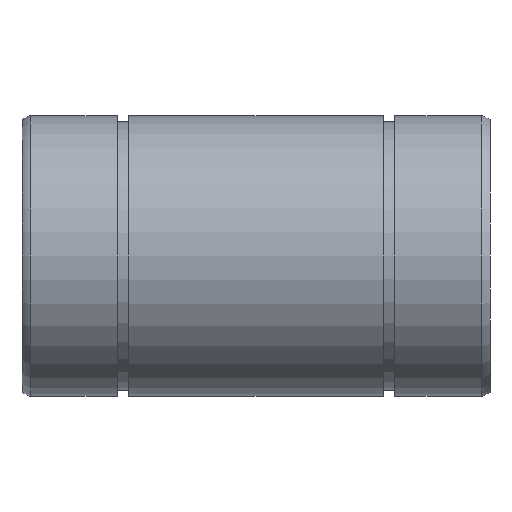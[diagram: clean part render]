
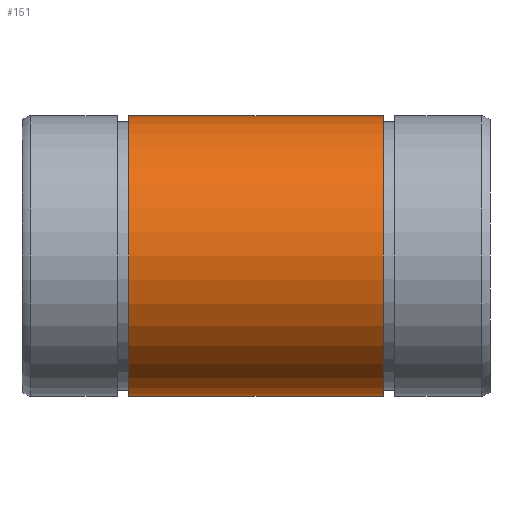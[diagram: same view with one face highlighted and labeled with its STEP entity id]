
A CAD part, front view. The second image highlights one B-rep face of the part: STEP entity #151.
In plain terms, the highlighted cylindrical face has radius 22.5 mm (diameter 45 mm), a full revolution.
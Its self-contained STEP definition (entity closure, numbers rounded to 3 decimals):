
#117=CARTESIAN_POINT('',(57.9,0.0,22.5));
#118=VERTEX_POINT('',#117);
#119=CARTESIAN_POINT('',(57.9,0.0,0.));
#120=DIRECTION('',(-1.0,0.0,0.0));
#121=DIRECTION('',(0.0,0.0,1.0));
#122=AXIS2_PLACEMENT_3D('',#119,#120,#121);
#123=CIRCLE('',#122,22.5);
#124=EDGE_CURVE('',#118,#118,#123,.T.);
#132=CARTESIAN_POINT('',(37.5,0.0,0.));
#133=DIRECTION('',(-1.0,0.0,0.0));
#134=DIRECTION('',(0.0,0.0,1.0));
#135=AXIS2_PLACEMENT_3D('',#132,#133,#134);
#136=CYLINDRICAL_SURFACE('',#135,22.5);
#137=CARTESIAN_POINT('',(17.1,0.0,22.5));
#138=VERTEX_POINT('',#137);
#139=CARTESIAN_POINT('',(17.1,0.0,0.));
#140=DIRECTION('',(-1.0,0.0,0.0));
#141=DIRECTION('',(0.0,0.0,1.0));
#142=AXIS2_PLACEMENT_3D('',#139,#140,#141);
#143=CIRCLE('',#142,22.5);
#144=EDGE_CURVE('',#138,#138,#143,.T.);
#145=ORIENTED_EDGE('',*,*,#144,.F.);
#146=EDGE_LOOP('',(#145));
#147=FACE_OUTER_BOUND('',#146,.T.);
#148=ORIENTED_EDGE('',*,*,#124,.T.);
#149=EDGE_LOOP('',(#148));
#150=FACE_BOUND('',#149,.T.);
#151=ADVANCED_FACE('',(#147,#150),#136,.T.);
